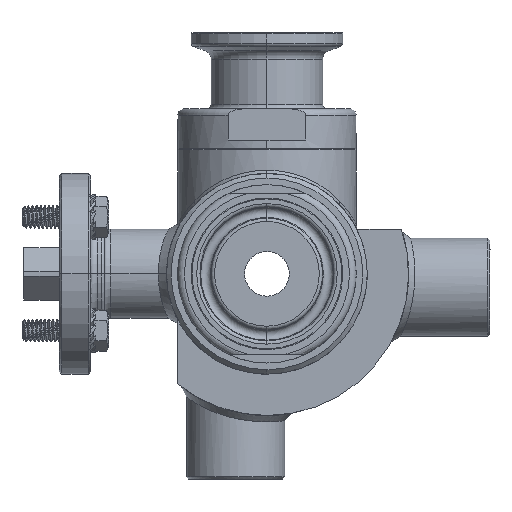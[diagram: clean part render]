
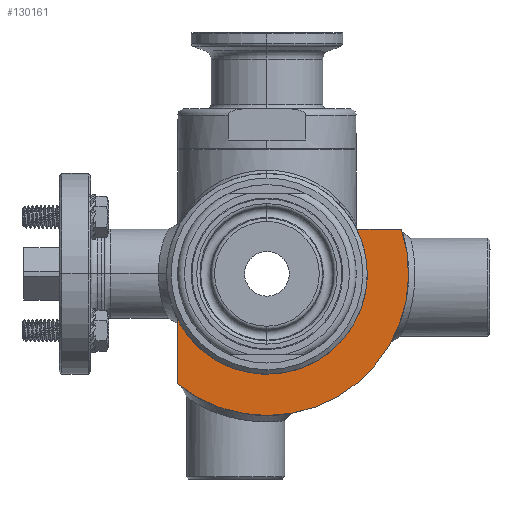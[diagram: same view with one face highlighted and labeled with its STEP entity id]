
A CAD part, left-side view. The second image highlights one B-rep face of the part: STEP entity #130161.
In plain terms, the highlighted planar face has unit normal (-1, 0, 0).
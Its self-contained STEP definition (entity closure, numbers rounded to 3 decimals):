
#130032=DIRECTION('',(0.,0.,-1.));
#130033=VECTOR('',#130032,14.351);
#130034=CARTESIAN_POINT('',(-24.,20.,-10.308));
#130035=LINE('',#130034,#130033);
#130039=CARTESIAN_POINT('',(-24.,0.,0.));
#130040=DIRECTION('',(1.,0.,0.));
#130041=DIRECTION('',(0.,-0.896,0.444));
#130042=AXIS2_PLACEMENT_3D('',#130039,#130040,#130041);
#130047=DIRECTION('',(0.,1.,0.));
#130048=VECTOR('',#130047,9.978);
#130049=CARTESIAN_POINT('',(-24.,-30.134,10.));
#130050=LINE('',#130049,#130048);
#130054=CARTESIAN_POINT('',(-24.,0.,0.));
#130055=DIRECTION('',(-1.,0.,0.));
#130056=DIRECTION('',(0.,0.63,-0.777));
#130057=AXIS2_PLACEMENT_3D('',#130054,#130055,#130056);
#130070=CARTESIAN_POINT('',(-24.,20.,-10.308));
#130071=CARTESIAN_POINT('',(-24.,20.,-24.659));
#130072=VERTEX_POINT('',#130070);
#130073=VERTEX_POINT('',#130071);
#130074=CARTESIAN_POINT('',(-24.,-30.134,10.));
#130075=VERTEX_POINT('',#130074);
#130076=CARTESIAN_POINT('',(-24.,-20.156,10.));
#130077=VERTEX_POINT('',#130076);
#130150=CARTESIAN_POINT('',(-24.,0.,0.));
#130151=DIRECTION('',(-1.,0.,0.));
#130152=DIRECTION('',(0.,0.,1.));
#130153=AXIS2_PLACEMENT_3D('',#130150,#130151,#130152);
#130154=PLANE('',#130153);
#130155=ORIENTED_EDGE('',*,*,#130102,.F.);
#130156=ORIENTED_EDGE('',*,*,#130117,.F.);
#130157=ORIENTED_EDGE('',*,*,#130131,.F.);
#130158=ORIENTED_EDGE('',*,*,#130144,.F.);
#130159=EDGE_LOOP('',(#130155,#130156,#130157,#130158));
#130160=FACE_OUTER_BOUND('',#130159,.F.);
#130161=ADVANCED_FACE('',(#130160),#130154,.T.);
#130043=CIRCLE('',#130042,22.5);
#130058=CIRCLE('',#130057,31.75);
#130102=EDGE_CURVE('',#130072,#130073,#130035,.T.);
#130117=EDGE_CURVE('',#130077,#130072,#130043,.T.);
#130131=EDGE_CURVE('',#130075,#130077,#130050,.T.);
#130144=EDGE_CURVE('',#130073,#130075,#130058,.T.);
